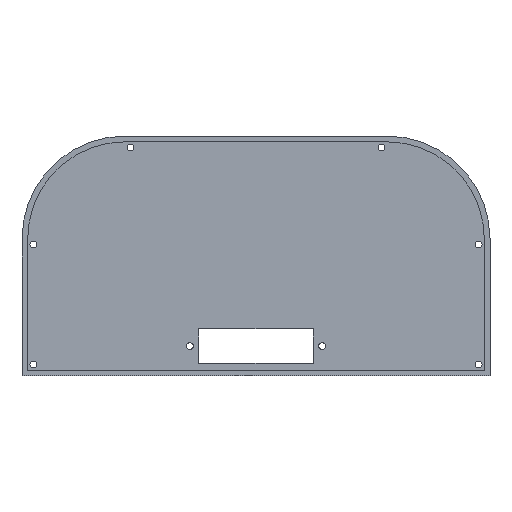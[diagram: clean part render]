
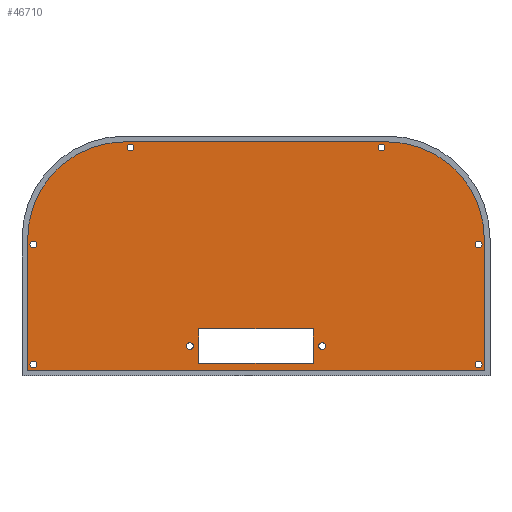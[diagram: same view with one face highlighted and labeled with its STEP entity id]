
A CAD part, top view. The second image highlights one B-rep face of the part: STEP entity #46710.
In plain terms, the highlighted planar face has unit normal (0, 0, 1).
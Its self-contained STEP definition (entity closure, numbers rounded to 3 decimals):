
#275=FACE_BOUND('',#5177,.T.);
#276=FACE_BOUND('',#5178,.T.);
#277=FACE_BOUND('',#5179,.T.);
#278=FACE_BOUND('',#5180,.T.);
#279=FACE_BOUND('',#5181,.T.);
#280=FACE_BOUND('',#5182,.T.);
#281=FACE_BOUND('',#5183,.T.);
#282=FACE_BOUND('',#5184,.T.);
#283=FACE_BOUND('',#5185,.T.);
#310=CIRCLE('',#48551,1.5);
#311=CIRCLE('',#48553,1.5);
#312=CIRCLE('',#48555,1.5);
#313=CIRCLE('',#48557,1.5);
#314=CIRCLE('',#48559,1.5);
#315=CIRCLE('',#48565,1.5);
#316=CIRCLE('',#48567,1.5);
#317=CIRCLE('',#48569,1.5);
#318=CIRCLE('',#48571,42.5);
#319=CIRCLE('',#48574,42.5);
#717=PLANE('',#48578);
#2461=FACE_OUTER_BOUND('',#5176,.T.);
#5176=EDGE_LOOP('',(#36514,#36515,#36516,#36517,#36518,#36519));
#5177=EDGE_LOOP('',(#36520));
#5178=EDGE_LOOP('',(#36521));
#5179=EDGE_LOOP('',(#36522));
#5180=EDGE_LOOP('',(#36523,#36524,#36525,#36526));
#5181=EDGE_LOOP('',(#36527));
#5182=EDGE_LOOP('',(#36528));
#5183=EDGE_LOOP('',(#36529));
#5184=EDGE_LOOP('',(#36530));
#5185=EDGE_LOOP('',(#36531));
#8353=LINE('',#69671,#11987);
#8355=LINE('',#69675,#11989);
#8357=LINE('',#69679,#11991);
#8359=LINE('',#69682,#11993);
#8365=LINE('',#69703,#11999);
#8368=LINE('',#69711,#12002);
#8370=LINE('',#69715,#12004);
#8372=LINE('',#69718,#12006);
#11987=VECTOR('',#51692,10.);
#11989=VECTOR('',#51696,10.);
#11991=VECTOR('',#51700,10.);
#11993=VECTOR('',#51704,10.);
#11999=VECTOR('',#51728,10.);
#12002=VECTOR('',#51737,10.);
#12004=VECTOR('',#51741,10.);
#12006=VECTOR('',#51745,10.);
#19724=VERTEX_POINT('',#69648);
#19725=VERTEX_POINT('',#69652);
#19726=VERTEX_POINT('',#69656);
#19727=VERTEX_POINT('',#69660);
#19728=VERTEX_POINT('',#69664);
#19729=VERTEX_POINT('',#69668);
#19730=VERTEX_POINT('',#69670);
#19731=VERTEX_POINT('',#69674);
#19732=VERTEX_POINT('',#69678);
#19733=VERTEX_POINT('',#69684);
#19734=VERTEX_POINT('',#69688);
#19735=VERTEX_POINT('',#69692);
#19736=VERTEX_POINT('',#69696);
#19737=VERTEX_POINT('',#69698);
#19738=VERTEX_POINT('',#69702);
#19739=VERTEX_POINT('',#69706);
#19740=VERTEX_POINT('',#69710);
#19741=VERTEX_POINT('',#69714);
#25703=EDGE_CURVE('',#19724,#19724,#310,.T.);
#25705=EDGE_CURVE('',#19725,#19725,#311,.T.);
#25707=EDGE_CURVE('',#19726,#19726,#312,.T.);
#25709=EDGE_CURVE('',#19727,#19727,#313,.T.);
#25711=EDGE_CURVE('',#19728,#19728,#314,.T.);
#25714=EDGE_CURVE('',#19730,#19729,#8353,.T.);
#25716=EDGE_CURVE('',#19731,#19730,#8355,.T.);
#25718=EDGE_CURVE('',#19732,#19731,#8357,.T.);
#25720=EDGE_CURVE('',#19729,#19732,#8359,.T.);
#25721=EDGE_CURVE('',#19733,#19733,#315,.T.);
#25723=EDGE_CURVE('',#19734,#19734,#316,.T.);
#25725=EDGE_CURVE('',#19735,#19735,#317,.T.);
#25728=EDGE_CURVE('',#19737,#19736,#318,.T.);
#25730=EDGE_CURVE('',#19738,#19737,#8365,.T.);
#25732=EDGE_CURVE('',#19739,#19738,#319,.T.);
#25734=EDGE_CURVE('',#19740,#19739,#8368,.T.);
#25736=EDGE_CURVE('',#19741,#19740,#8370,.T.);
#25738=EDGE_CURVE('',#19736,#19741,#8372,.T.);
#36514=ORIENTED_EDGE('',*,*,#25738,.T.);
#36515=ORIENTED_EDGE('',*,*,#25736,.T.);
#36516=ORIENTED_EDGE('',*,*,#25734,.T.);
#36517=ORIENTED_EDGE('',*,*,#25732,.T.);
#36518=ORIENTED_EDGE('',*,*,#25730,.T.);
#36519=ORIENTED_EDGE('',*,*,#25728,.T.);
#36520=ORIENTED_EDGE('',*,*,#25725,.T.);
#36521=ORIENTED_EDGE('',*,*,#25723,.T.);
#36522=ORIENTED_EDGE('',*,*,#25721,.T.);
#36523=ORIENTED_EDGE('',*,*,#25720,.T.);
#36524=ORIENTED_EDGE('',*,*,#25718,.T.);
#36525=ORIENTED_EDGE('',*,*,#25716,.T.);
#36526=ORIENTED_EDGE('',*,*,#25714,.T.);
#36527=ORIENTED_EDGE('',*,*,#25711,.T.);
#36528=ORIENTED_EDGE('',*,*,#25709,.T.);
#36529=ORIENTED_EDGE('',*,*,#25707,.T.);
#36530=ORIENTED_EDGE('',*,*,#25705,.T.);
#36531=ORIENTED_EDGE('',*,*,#25703,.T.);
#46710=ADVANCED_FACE('',(#2461,#275,#276,#277,#278,#279,#280,#281,#282,
#283),#717,.T.);
#48551=AXIS2_PLACEMENT_3D('',#69649,#51666,#51667);
#48553=AXIS2_PLACEMENT_3D('',#69653,#51671,#51672);
#48555=AXIS2_PLACEMENT_3D('',#69657,#51676,#51677);
#48557=AXIS2_PLACEMENT_3D('',#69661,#51681,#51682);
#48559=AXIS2_PLACEMENT_3D('',#69665,#51686,#51687);
#48565=AXIS2_PLACEMENT_3D('',#69685,#51707,#51708);
#48567=AXIS2_PLACEMENT_3D('',#69689,#51712,#51713);
#48569=AXIS2_PLACEMENT_3D('',#69693,#51717,#51718);
#48571=AXIS2_PLACEMENT_3D('',#69699,#51723,#51724);
#48574=AXIS2_PLACEMENT_3D('',#69707,#51732,#51733);
#48578=AXIS2_PLACEMENT_3D('',#69719,#51746,#51747);
#51666=DIRECTION('center_axis',(0.,0.,-1.));
#51667=DIRECTION('ref_axis',(1.,0.,0.));
#51671=DIRECTION('center_axis',(0.,0.,-1.));
#51672=DIRECTION('ref_axis',(1.,0.,0.));
#51676=DIRECTION('center_axis',(0.,0.,-1.));
#51677=DIRECTION('ref_axis',(1.,0.,0.));
#51681=DIRECTION('center_axis',(0.,0.,-1.));
#51682=DIRECTION('ref_axis',(1.,0.,0.));
#51686=DIRECTION('center_axis',(0.,0.,-1.));
#51687=DIRECTION('ref_axis',(1.,0.,0.));
#51692=DIRECTION('',(1.,0.,0.));
#51696=DIRECTION('',(0.,1.,0.));
#51700=DIRECTION('',(-1.,0.,0.));
#51704=DIRECTION('',(0.,-1.,0.));
#51707=DIRECTION('center_axis',(0.,0.,-1.));
#51708=DIRECTION('ref_axis',(1.,0.,0.));
#51712=DIRECTION('center_axis',(0.,0.,-1.));
#51713=DIRECTION('ref_axis',(1.,0.,0.));
#51717=DIRECTION('center_axis',(0.,0.,-1.));
#51718=DIRECTION('ref_axis',(1.,0.,0.));
#51723=DIRECTION('center_axis',(0.,0.,1.));
#51724=DIRECTION('ref_axis',(0.,1.,0.));
#51728=DIRECTION('',(-1.,0.,0.));
#51732=DIRECTION('center_axis',(0.,0.,1.));
#51733=DIRECTION('ref_axis',(1.,0.,0.));
#51737=DIRECTION('',(0.,1.,0.));
#51741=DIRECTION('',(1.,0.,0.));
#51745=DIRECTION('',(0.,-1.,0.));
#51746=DIRECTION('center_axis',(0.,0.,1.));
#51747=DIRECTION('ref_axis',(1.,0.,0.));
#69648=CARTESIAN_POINT('',(139.329,6.889,-73.1));
#69649=CARTESIAN_POINT('Origin',(140.829,6.889,-73.1));
#69652=CARTESIAN_POINT('',(-55.671,59.389,-73.1));
#69653=CARTESIAN_POINT('Origin',(-54.171,59.389,-73.1));
#69656=CARTESIAN_POINT('',(-55.671,6.889,-73.1));
#69657=CARTESIAN_POINT('Origin',(-54.171,6.889,-73.1));
#69660=CARTESIAN_POINT('',(-13.171,101.889,-73.1));
#69661=CARTESIAN_POINT('Origin',(-11.671,101.889,-73.1));
#69664=CARTESIAN_POINT('',(96.829,101.889,-73.1));
#69665=CARTESIAN_POINT('Origin',(98.329,101.889,-73.1));
#69668=CARTESIAN_POINT('',(68.329,22.464,-73.1));
#69670=CARTESIAN_POINT('',(18.329,22.464,-73.1));
#69671=CARTESIAN_POINT('',(68.329,22.464,-73.1));
#69674=CARTESIAN_POINT('',(18.329,7.314,-73.1));
#69675=CARTESIAN_POINT('',(18.329,22.464,-73.1));
#69678=CARTESIAN_POINT('',(68.329,7.314,-73.1));
#69679=CARTESIAN_POINT('',(18.329,7.314,-73.1));
#69682=CARTESIAN_POINT('',(68.329,7.314,-73.1));
#69684=CARTESIAN_POINT('',(12.829,14.889,-73.1));
#69685=CARTESIAN_POINT('Origin',(14.329,14.889,-73.1));
#69688=CARTESIAN_POINT('',(70.829,14.889,-73.1));
#69689=CARTESIAN_POINT('Origin',(72.329,14.889,-73.1));
#69692=CARTESIAN_POINT('',(139.329,59.389,-73.1));
#69693=CARTESIAN_POINT('Origin',(140.829,59.389,-73.1));
#69696=CARTESIAN_POINT('',(-56.671,61.889,-73.1));
#69698=CARTESIAN_POINT('',(-14.171,104.389,-73.1));
#69699=CARTESIAN_POINT('Origin',(-14.171,61.889,-73.1));
#69702=CARTESIAN_POINT('',(100.829,104.389,-73.1));
#69703=CARTESIAN_POINT('',(100.829,104.389,-73.1));
#69706=CARTESIAN_POINT('',(143.329,61.889,-73.1));
#69707=CARTESIAN_POINT('Origin',(100.829,61.889,-73.1));
#69710=CARTESIAN_POINT('',(143.329,4.389,-73.1));
#69711=CARTESIAN_POINT('',(143.329,9.389,-73.1));
#69714=CARTESIAN_POINT('',(-56.671,4.389,-73.1));
#69715=CARTESIAN_POINT('',(-56.671,4.389,-73.1));
#69718=CARTESIAN_POINT('',(-56.671,4.389,-73.1));
#69719=CARTESIAN_POINT('Origin',(43.329,54.389,-73.1));
